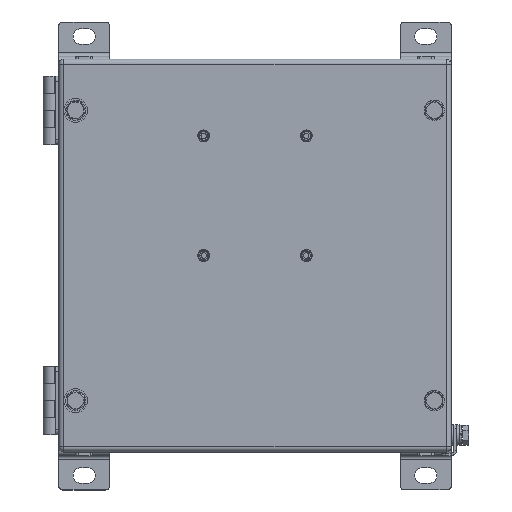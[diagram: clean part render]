
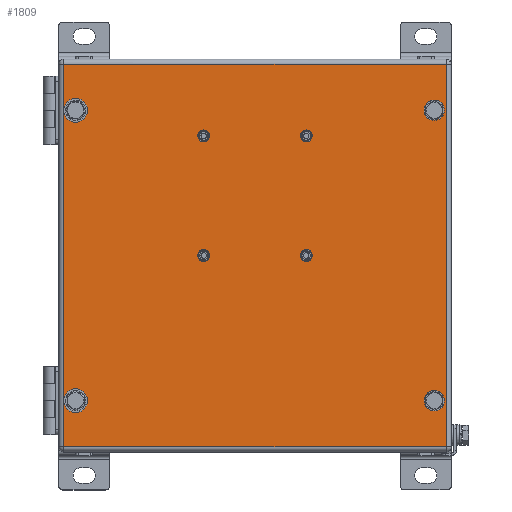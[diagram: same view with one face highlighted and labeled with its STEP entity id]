
A CAD part, top view. The second image highlights one B-rep face of the part: STEP entity #1809.
In plain terms, the highlighted planar face has unit normal (0, 0, 1).
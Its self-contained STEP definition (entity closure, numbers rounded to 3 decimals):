
#1283=CARTESIAN_POINT('',(112.0,-112.,150.));
#1284=VERTEX_POINT('',#1283);
#1350=CARTESIAN_POINT('',(112.0,112.,150.));
#1351=VERTEX_POINT('',#1350);
#1417=CARTESIAN_POINT('',(-112.0,-112.,150.));
#1418=VERTEX_POINT('',#1417);
#1490=CARTESIAN_POINT('',(112.,-112.,150.));
#1491=DIRECTION('',(-1.0,0.0,0.0));
#1492=VECTOR('',#1491,224.0);
#1493=LINE('',#1490,#1492);
#1494=EDGE_CURVE('',#1284,#1418,#1493,.T.);
#1506=CARTESIAN_POINT('',(-112.0,112.,150.));
#1507=VERTEX_POINT('',#1506);
#1579=CARTESIAN_POINT('',(-112.0,-112.0,150.));
#1580=DIRECTION('',(0.0,1.0,0.0));
#1581=VECTOR('',#1580,224.0);
#1582=LINE('',#1579,#1581);
#1583=EDGE_CURVE('',#1418,#1507,#1582,.T.);
#1601=CARTESIAN_POINT('',(-112.0,112.,150.));
#1602=DIRECTION('',(1.0,0.0,0.0));
#1603=VECTOR('',#1602,224.0);
#1604=LINE('',#1601,#1603);
#1605=EDGE_CURVE('',#1507,#1351,#1604,.T.);
#1623=CARTESIAN_POINT('',(112.0,112.,150.));
#1624=DIRECTION('',(0.0,-1.0,0.0));
#1625=VECTOR('',#1624,224.0);
#1626=LINE('',#1623,#1625);
#1627=EDGE_CURVE('',#1351,#1284,#1626,.T.);
#1710=CARTESIAN_POINT('',(0.,0.,150.));
#1711=DIRECTION('',(0.0,0.0,1.0));
#1712=DIRECTION('',(1.0,0.0,0.0));
#1713=AXIS2_PLACEMENT_3D('',#1710,#1711,#1712);
#1714=PLANE('',#1713);
#1715=ORIENTED_EDGE('',*,*,#1494,.F.);
#1716=ORIENTED_EDGE('',*,*,#1627,.F.);
#1717=ORIENTED_EDGE('',*,*,#1605,.F.);
#1718=ORIENTED_EDGE('',*,*,#1583,.F.);
#1719=EDGE_LOOP('',(#1715,#1716,#1717,#1718));
#1720=FACE_OUTER_BOUND('',#1719,.T.);
#1721=CARTESIAN_POINT('',(-101.25,85.,150.));
#1722=VERTEX_POINT('',#1721);
#1723=CARTESIAN_POINT('',(-105.0,85.,150.));
#1724=DIRECTION('',(0.0,0.0,-1.0));
#1725=DIRECTION('',(-1.0,0.0,0.0));
#1726=AXIS2_PLACEMENT_3D('',#1723,#1724,#1725);
#1727=CIRCLE('',#1726,3.75);
#1728=EDGE_CURVE('',#1722,#1722,#1727,.T.);
#1729=ORIENTED_EDGE('',*,*,#1728,.T.);
#1730=EDGE_LOOP('',(#1729));
#1731=FACE_BOUND('',#1730,.T.);
#1732=CARTESIAN_POINT('',(108.75,85.0,150.));
#1733=VERTEX_POINT('',#1732);
#1734=CARTESIAN_POINT('',(105.0,85.0,150.));
#1735=DIRECTION('',(0.0,0.0,-1.0));
#1736=DIRECTION('',(-1.0,0.0,0.0));
#1737=AXIS2_PLACEMENT_3D('',#1734,#1735,#1736);
#1738=CIRCLE('',#1737,3.75);
#1739=EDGE_CURVE('',#1733,#1733,#1738,.T.);
#1740=ORIENTED_EDGE('',*,*,#1739,.T.);
#1741=EDGE_LOOP('',(#1740));
#1742=FACE_BOUND('',#1741,.T.);
#1743=CARTESIAN_POINT('',(-101.25,-85.,150.));
#1744=VERTEX_POINT('',#1743);
#1745=CARTESIAN_POINT('',(-105.0,-85.,150.));
#1746=DIRECTION('',(0.0,0.0,-1.0));
#1747=DIRECTION('',(-1.0,0.0,0.0));
#1748=AXIS2_PLACEMENT_3D('',#1745,#1746,#1747);
#1749=CIRCLE('',#1748,3.75);
#1750=EDGE_CURVE('',#1744,#1744,#1749,.T.);
#1751=ORIENTED_EDGE('',*,*,#1750,.T.);
#1752=EDGE_LOOP('',(#1751));
#1753=FACE_BOUND('',#1752,.T.);
#1754=CARTESIAN_POINT('',(108.75,-85.0,150.0));
#1755=VERTEX_POINT('',#1754);
#1756=CARTESIAN_POINT('',(105.0,-85.0,150.0));
#1757=DIRECTION('',(0.0,0.0,-1.0));
#1758=DIRECTION('',(-1.0,0.0,0.0));
#1759=AXIS2_PLACEMENT_3D('',#1756,#1757,#1758);
#1760=CIRCLE('',#1759,3.75);
#1761=EDGE_CURVE('',#1755,#1755,#1760,.T.);
#1762=ORIENTED_EDGE('',*,*,#1761,.T.);
#1763=EDGE_LOOP('',(#1762));
#1764=FACE_BOUND('',#1763,.T.);
#1765=CARTESIAN_POINT('',(33.05,70.,150.));
#1766=VERTEX_POINT('',#1765);
#1767=CARTESIAN_POINT('',(30.,70.,150.));
#1768=DIRECTION('',(0.0,0.0,-1.0));
#1769=DIRECTION('',(-1.0,0.0,0.0));
#1770=AXIS2_PLACEMENT_3D('',#1767,#1768,#1769);
#1771=CIRCLE('',#1770,3.05);
#1772=EDGE_CURVE('',#1766,#1766,#1771,.T.);
#1773=ORIENTED_EDGE('',*,*,#1772,.T.);
#1774=EDGE_LOOP('',(#1773));
#1775=FACE_BOUND('',#1774,.T.);
#1776=CARTESIAN_POINT('',(-26.95,70.,150.));
#1777=VERTEX_POINT('',#1776);
#1778=CARTESIAN_POINT('',(-30.,70.,150.));
#1779=DIRECTION('',(0.0,0.0,-1.0));
#1780=DIRECTION('',(-1.0,0.0,0.0));
#1781=AXIS2_PLACEMENT_3D('',#1778,#1779,#1780);
#1782=CIRCLE('',#1781,3.05);
#1783=EDGE_CURVE('',#1777,#1777,#1782,.T.);
#1784=ORIENTED_EDGE('',*,*,#1783,.T.);
#1785=EDGE_LOOP('',(#1784));
#1786=FACE_BOUND('',#1785,.T.);
#1787=CARTESIAN_POINT('',(-26.95,0.,150.));
#1788=VERTEX_POINT('',#1787);
#1789=CARTESIAN_POINT('',(-30.,0.,150.));
#1790=DIRECTION('',(0.0,0.0,-1.0));
#1791=DIRECTION('',(-1.0,0.0,0.0));
#1792=AXIS2_PLACEMENT_3D('',#1789,#1790,#1791);
#1793=CIRCLE('',#1792,3.05);
#1794=EDGE_CURVE('',#1788,#1788,#1793,.T.);
#1795=ORIENTED_EDGE('',*,*,#1794,.T.);
#1796=EDGE_LOOP('',(#1795));
#1797=FACE_BOUND('',#1796,.T.);
#1798=CARTESIAN_POINT('',(33.05,0.,150.));
#1799=VERTEX_POINT('',#1798);
#1800=CARTESIAN_POINT('',(30.,0.,150.));
#1801=DIRECTION('',(0.0,0.0,-1.0));
#1802=DIRECTION('',(-1.0,0.0,0.0));
#1803=AXIS2_PLACEMENT_3D('',#1800,#1801,#1802);
#1804=CIRCLE('',#1803,3.05);
#1805=EDGE_CURVE('',#1799,#1799,#1804,.T.);
#1806=ORIENTED_EDGE('',*,*,#1805,.T.);
#1807=EDGE_LOOP('',(#1806));
#1808=FACE_BOUND('',#1807,.T.);
#1809=ADVANCED_FACE('',(#1720,#1731,#1742,#1753,#1764,#1775,#1786,#1797,#1808),#1714,.T.);
